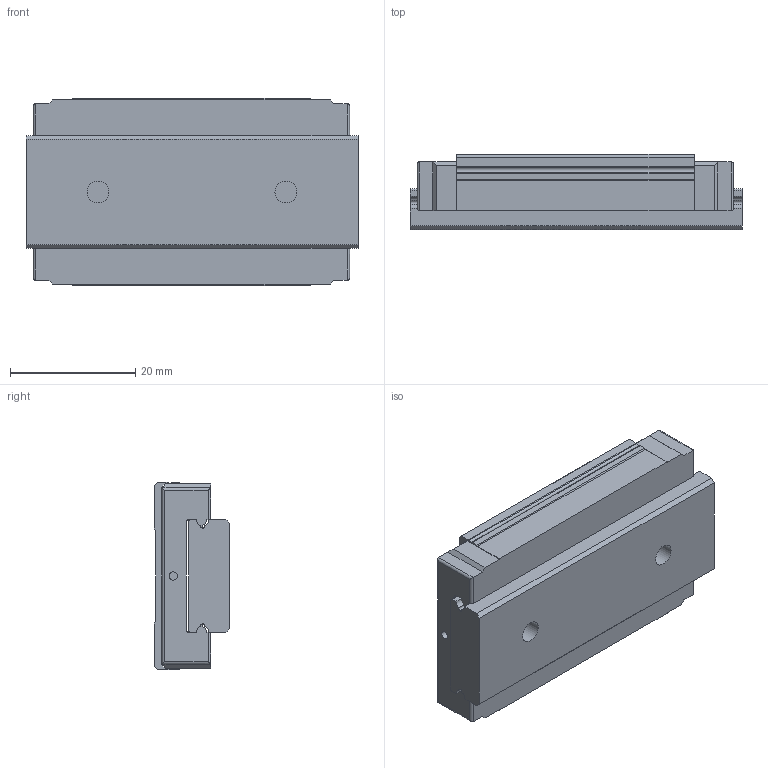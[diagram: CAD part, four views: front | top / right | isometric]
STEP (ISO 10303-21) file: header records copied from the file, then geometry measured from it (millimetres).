
FILE_DESCRIPTION( ( 'STEP AP214' ), '1' );
FILE_NAME( 'G:/品牌/AZI工艺/滑块/GGC/GGC9AKL.stp', '2024-01-19T03:42:04', ( 'License CC BY-ND 4.0' ), ( 'CADENAS' ), ' ', 'PARTsolutions', ' ' );
FILE_SCHEMA( ( 'AUTOMOTIVE_DESIGN { 1 0 10303 214 1 1 1 1 }' ) );
Length unit declared in the file: millimetre
Products named in the file (3): ZLCEW12-53-(26.4-0-0); _ZTCEW12-53; _ZZLCEW12
Assembly tree (2 placements, depth 2):
  ZLCEW12-53-(26.4-0-0)
    _ZTCEW12-53
    _ZZLCEW12
Bounding box: 53 x 12 x 30 mm (x, y, z)
Volume: 15137.3 mm3; surface area: 8178.7 mm2
Topology: 2 solids, 2 shells, 108 faces, 284 edges, 180 vertices
Faces by surface type: plane 61, cylinder 39, cone 8
Full cylindrical faces by diameter (mm): 1.3 x2, 2.459 x4, 3.5 x2, 6 x2
Entity records: 4122 total; most frequent: DIRECTION 558, CARTESIAN_POINT 553, ORIENTED_EDGE 524, EDGE_CURVE 262, LINE 188, VECTOR 188, AXIS2_PLACEMENT_3D 185, VERTEX_POINT 180
